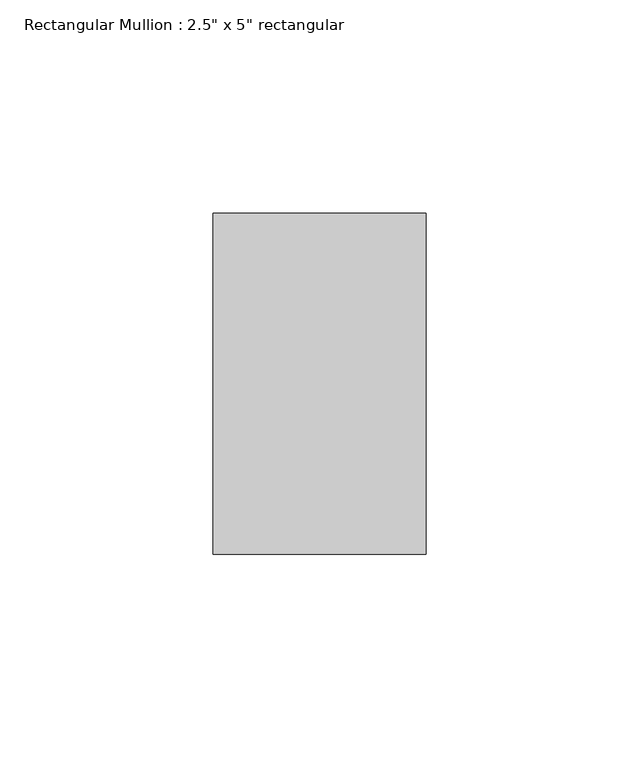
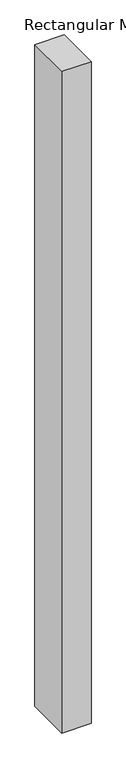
"""IFC4 building model written with IfcOpenShell, lengths in millimetres: member geometry."""

import ifcopenshell
import ifcopenshell.guid

model = None  # the IFC model being written
_history = None  # IfcOwnerHistory: only IFC2X3 demands one
_inside = {}  # id of a spatial element -> (the spatial element, [elements in it])
_under = {}  # id of a project, library or spatial element -> (it, [spatial elements below it])
_declared = {}  # id of a project -> (the project, [libraries it declares])
_typed = {}  # id of a type object -> (the type object, [elements of that type])
_made_of = {}  # id of a material, layer set ... -> (it, [elements and type objects made of it])


def new_model(schema):
    """Start an empty IFC model of exactly this schema.

    Asked for "IFC4X3", IfcOpenShell would pick the latest addendum, in which some entities
    have other attributes; the version numbers below select the first issue.
    IFC2X3 requires an IfcOwnerHistory on every rooted entity: one is made here for all.
    """
    global model, _history
    if schema == "IFC4X3":
        model = ifcopenshell.file(schema_version=(4, 3, 0, 0))
    else:
        model = ifcopenshell.file(schema=schema)
    _inside.clear()
    _under.clear()
    _declared.clear()
    _typed.clear()
    _made_of.clear()
    _history = None
    if model.schema == "IFC2X3":
        org = make("IfcOrganization", Name="unknown")
        user = make(
            "IfcPersonAndOrganization",
            ThePerson=make("IfcPerson", FamilyName="unknown"),
            TheOrganization=org,
        )
        app = make(
            "IfcApplication",
            ApplicationDeveloper=org,
            Version="unknown",
            ApplicationFullName="unknown",
            ApplicationIdentifier="unknown",
        )
        _history = make(
            "IfcOwnerHistory",
            OwningUser=user,
            OwningApplication=app,
            ChangeAction="ADDED",
            CreationDate=0,
        )
    return model


def make(cls, **values):
    """One entity of the class cls with the attributes given. An attribute that is None is left unset."""
    return model.create_entity(
        cls, **{name: value for name, value in values.items() if value is not None}
    )


def rooted(cls, **values):
    """An entity with a GlobalId (a new one), such as an element, a storey or a relation."""
    return make(cls, GlobalId=ifcopenshell.guid.new(), OwnerHistory=_history, **values)


def si_unit(unit_type, name, prefix=None):
    """IfcSIUnit, for example si_unit("LENGTHUNIT", "METRE", prefix="MILLI")."""
    return make("IfcSIUnit", UnitType=unit_type, Prefix=prefix, Name=name)


def assignment(units):
    """IfcUnitAssignment: the units of a project."""
    return None if units is None else make("IfcUnitAssignment", Units=units)


def point(xyz):
    """IfcCartesianPoint."""
    return None if xyz is None else make("IfcCartesianPoint", Coordinates=xyz)


def direction(xyz):
    """IfcDirection."""
    return None if xyz is None else make("IfcDirection", DirectionRatios=xyz)


def frame(location, z_axis=None, x_axis=None):
    """IfcAxis2Placement3D, a coordinate frame: its origin and axes. An axis left out is left unset."""
    return make(
        "IfcAxis2Placement3D",
        Location=point(location),
        Axis=direction(z_axis),
        RefDirection=direction(x_axis),
    )


def origin():
    """The frame at (0, 0, 0) with its axes left unset."""
    return frame((0.0, 0.0, 0.0))


def place(relative_to, where):
    """IfcLocalPlacement: puts the frame where relative to a parent placement (None: the world)."""
    return make(
        "IfcLocalPlacement", PlacementRelTo=relative_to, RelativePlacement=where
    )


def context(
    kind, dimensions, precision=None, world=None, true_north=None, identifier=None
):
    """IfcGeometricRepresentationContext, for example the 3D "Model" context."""
    return make(
        "IfcGeometricRepresentationContext",
        ContextIdentifier=identifier,
        ContextType=kind,
        CoordinateSpaceDimension=dimensions,
        Precision=precision,
        WorldCoordinateSystem=world,
        TrueNorth=true_north,
    )


def project(units=None, contexts=None):
    """IfcProject with its units and contexts."""
    return rooted(
        "IfcProject",
        Name="project",
        RepresentationContexts=contexts,
        UnitsInContext=assignment(units),
    )


def spatial(cls, under=None, at=None, **own):
    """A site, building, storey or space (cls), placed at a placement, below another one or the project."""
    s = rooted(cls, ObjectPlacement=at, **own)
    if under is not None:
        _under.setdefault(under.id(), (under, []))[1].append(s)
    return s


def polyline(points):
    """IfcPolyline through the points."""
    return make("IfcPolyline", Points=[point(p) for p in points])


def outline(outer, holes=None, kind="AREA"):
    """IfcArbitraryClosedProfileDef: a profile drawn as a closed curve; with holes, ...WithVoids."""
    if holes is None:
        return make("IfcArbitraryClosedProfileDef", ProfileType=kind, OuterCurve=outer)
    return make(
        "IfcArbitraryProfileDefWithVoids",
        ProfileType=kind,
        OuterCurve=outer,
        InnerCurves=holes,
    )


def extrude(swept, where, along, depth):
    """IfcExtrudedAreaSolid: the profile swept, set in the frame where, extruded along a direction by depth."""
    return make(
        "IfcExtrudedAreaSolid",
        SweptArea=swept,
        Position=where,
        ExtrudedDirection=direction(along),
        Depth=depth,
    )


def shape(context_of_items, identifier, shape_type, items):
    """IfcShapeRepresentation: the items that make up one representation, for example the "Body"."""
    return make(
        "IfcShapeRepresentation",
        ContextOfItems=context_of_items,
        RepresentationIdentifier=identifier,
        RepresentationType=shape_type,
        Items=items,
    )


def source(mapping_origin, context_of_items, identifier, shape_type, items):
    """IfcRepresentationMap: a shape defined once, which mapped items show again and again."""
    return make(
        "IfcRepresentationMap",
        MappingOrigin=mapping_origin,
        MappedRepresentation=shape(context_of_items, identifier, shape_type, items),
    )


def transform(
    local_origin,
    x_axis=None,
    y_axis=None,
    z_axis=None,
    scale=None,
    scale2=None,
    scale3=None,
    uniform=True,
):
    """IfcCartesianTransformationOperator3D, or its non-uniform kind. x_axis, y_axis, z_axis: its Axis1, 2, 3."""
    if uniform:
        return make(
            "IfcCartesianTransformationOperator3D",
            Axis1=direction(x_axis),
            Axis2=direction(y_axis),
            LocalOrigin=point(local_origin),
            Scale=scale,
            Axis3=direction(z_axis),
        )
    return make(
        "IfcCartesianTransformationOperator3DnonUniform",
        Axis1=direction(x_axis),
        Axis2=direction(y_axis),
        LocalOrigin=point(local_origin),
        Scale=scale,
        Axis3=direction(z_axis),
        Scale2=scale2,
        Scale3=scale3,
    )


def mapped(mapping_source, mapping_target):
    """IfcMappedItem: shows the shape of a source again, moved by a transform."""
    return make(
        "IfcMappedItem", MappingSource=mapping_source, MappingTarget=mapping_target
    )


def made_of(thing, what):
    """Note that an element or type object is made of a material, layer set ...; save() writes the relation."""
    if what is not None:
        _made_of.setdefault(what.id(), (what, []))[1].append(thing)
    return thing


def element(
    cls,
    number,
    at=None,
    inside=None,
    cuts=None,
    type_object=None,
    material=None,
    context=None,
    identifier="Body",
    shape_type=None,
    held_by="IfcProductDefinitionShape",
    body=None,
    shapes=None,
    **own,
):
    """One element of the class cls, such as IfcWall. Its Tag is "e" and its number.

    at: its placement. inside: the storey or other place that contains it. cuts: it is an
    opening in that element (IfcRelVoidsElement). A single representation is given by context,
    identifier, shape_type and body (its items); several are given by shapes. held_by: the class
    of the entity that holds the representations. save() writes the other relations.
    """
    e = rooted(cls, Tag="e%d" % number, ObjectPlacement=at, **own)
    if body is not None:
        shapes = [shape(context, identifier, shape_type, body)]
    if shapes is not None:
        e.Representation = make(held_by, Representations=shapes)
    if inside is not None:
        _inside.setdefault(inside.id(), (inside, []))[1].append(e)
    if cuts is not None:
        rooted(
            "IfcRelVoidsElement", RelatingBuildingElement=cuts, RelatedOpeningElement=e
        )
    if type_object is not None:
        _typed.setdefault(type_object.id(), (type_object, []))[1].append(e)
    return made_of(e, material)


def aggregate(whole, parts):
    """IfcRelAggregates: a whole, such as a stair, and the parts it consists of."""
    return rooted("IfcRelAggregates", RelatingObject=whole, RelatedObjects=parts)


def save(model, path):
    """Write the relations noted so far, then the file.

    IfcRelAggregates (storeys below a building ...), IfcRelContainedInSpatialStructure (elements
    in a storey), IfcRelDefinesByType, IfcRelAssociatesMaterial and IfcRelDeclares: one each for
    every whole, place, type object, material and project.
    """
    for whole, parts in _under.values():
        aggregate(whole, parts)
    for where, things in _inside.values():
        rooted(
            "IfcRelContainedInSpatialStructure",
            RelatedElements=things,
            RelatingStructure=where,
        )
    for kind, things in _typed.values():
        rooted("IfcRelDefinesByType", RelatedObjects=things, RelatingType=kind)
    for what, things in _made_of.values():
        rooted("IfcRelAssociatesMaterial", RelatedObjects=things, RelatingMaterial=what)
    for by, libraries in _declared.values():
        rooted("IfcRelDeclares", RelatingContext=by, RelatedDefinitions=libraries)
    model.write(path)


def member_23567610(model_context):
    return source(origin(), model_context, "Body", "SweptSolid", [
        extrude(outline(polyline([(0.0, 40.0), (0.0, -40.0), (-50.0, -40.0), (-50.0, 40.0), (0.0, 40.0)])), frame((0.0, 0.0, -1199.6707214), z_axis=(0.0, 0.0, 1.0), x_axis=(1.0, 0.0, 0.0)), (0.0, 0.0, 1.0), 1199.6707214),
    ])


if __name__ == "__main__":
    model = new_model("IFC4")
    model_context = context("Model", 3, world=origin())
    ifc_project = project(units=[si_unit("LENGTHUNIT", "METRE", prefix="MILLI")], contexts=[model_context])
    site = spatial("IfcSite", under=ifc_project)
    building = spatial("IfcBuilding", under=site)
    placement = place(None, origin())
    member_shape = member_23567610(model_context)
    element("IfcMember", 1, ObjectType="Rectangular Mullion : 2.5\" x 5\" rectangular", at=placement, inside=building, context=model_context, shape_type="MappedRepresentation", body=[
        mapped(member_shape, transform((0.0, 0.0, 0.0), x_axis=(1.0, 0.0, 0.0), y_axis=(0.0, 1.0, 0.0), z_axis=(0.0, 0.0, 1.0))),
    ])
    save(model, "model.ifc")
